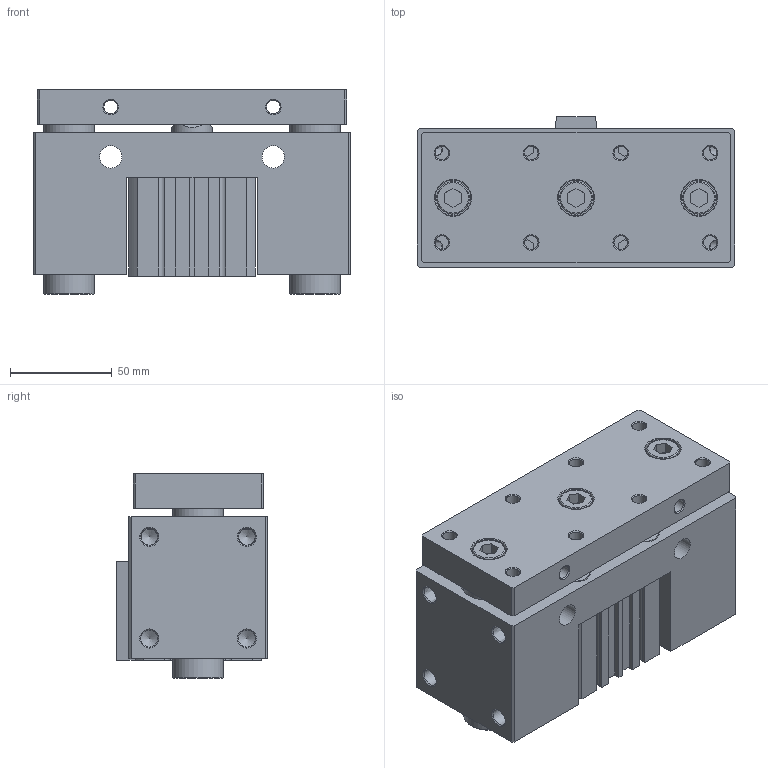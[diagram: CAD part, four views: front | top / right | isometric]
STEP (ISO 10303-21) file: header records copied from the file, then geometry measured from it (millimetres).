
FILE_DESCRIPTION((''),'2;1');
FILE_NAME('I:\3D電子目錄\氣缸\JCB\JCB\JCB50-S\JCB50x10-S.stp','2007-08-30T16:29:27',('Administrator'),(''),'Autodesk Inventor 11','Autodesk Inventor 11','');
FILE_SCHEMA(('AUTOMOTIVE_DESIGN { 1 0 10303 214 1 1 1 1 }'));
Length unit declared in the file: millimetre
Products named in the file (1): JCB50
Bounding box: 156 x 74 x 100.5 mm (x, y, z)
Volume: 816878 mm3; surface area: 154810 mm2
Topology: 3 solids, 3 shells, 328 faces, 786 edges, 510 vertices
Faces by surface type: plane 190, cylinder 58, cone 45, bspline 31, torus 4
Full cylindrical faces by diameter (mm): 2.7 x2, 6.8 x4, 8.376 x4, 11 x8, 13 x4, 14 x4, 16 x3, 17.5 x3, 20 x1, 21 x1, 25 x2, 28 x2, 37 x1, 38 x1, 52 x4, 55 x2
Entity records: 9390 total; most frequent: CARTESIAN_POINT 2294, DIRECTION 1434, ORIENTED_EDGE 1264, EDGE_CURVE 632, EDGE_LOOP 536, AXIS2_PLACEMENT_3D 512, VERTEX_POINT 480, VECTOR 410
